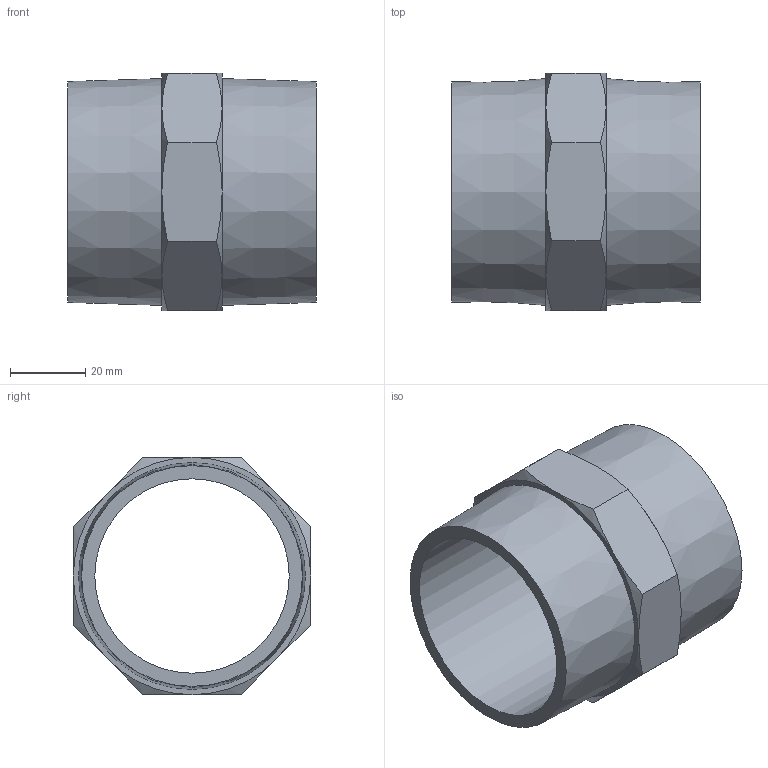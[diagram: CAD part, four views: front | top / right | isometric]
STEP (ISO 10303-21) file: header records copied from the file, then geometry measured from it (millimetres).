
FILE_DESCRIPTION(/* description */ (''),/* implementation_level */ '2;1');
FILE_NAME(/* name */ 'C:\Users\D\Documents\Inventor\各種小物\JIS\ニップル\2.stp',/* time_stamp */ '2022-06-22T15:38:21+09:00',/* author */ ('D'),/* organization */ (''),/* preprocessor_version */ 'ST-DEVELOPER v18',/* originating_system */ 'Autodesk Inventor 2020',/* authorisation */ '');
FILE_SCHEMA (('AUTOMOTIVE_DESIGN { 1 0 10303 214 3 1 1 }'));
Length unit declared in the file: millimetre
Products named in the file (1): 2
Bounding box: 66 x 63 x 63 mm (x, y, z)
Volume: 52941.6 mm3; surface area: 25318.5 mm2
Topology: 1 solids, 1 shells, 31 faces, 69 edges, 42 vertices
Faces by surface type: cone 18, plane 12, cylinder 1
Full cylindrical faces by diameter (mm): 51.614 x1
Entity records: 866 total; most frequent: CARTESIAN_POINT 207, ORIENTED_EDGE 138, DIRECTION 127, EDGE_CURVE 69, AXIS2_PLACEMENT_3D 58, VERTEX_POINT 42, EDGE_LOOP 35, FACE_OUTER_BOUND 31
